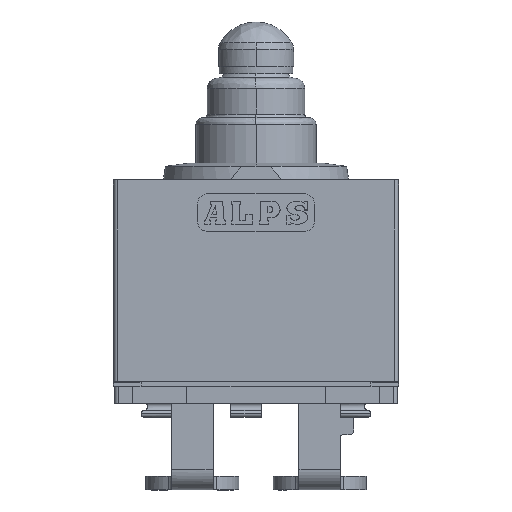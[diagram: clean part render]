
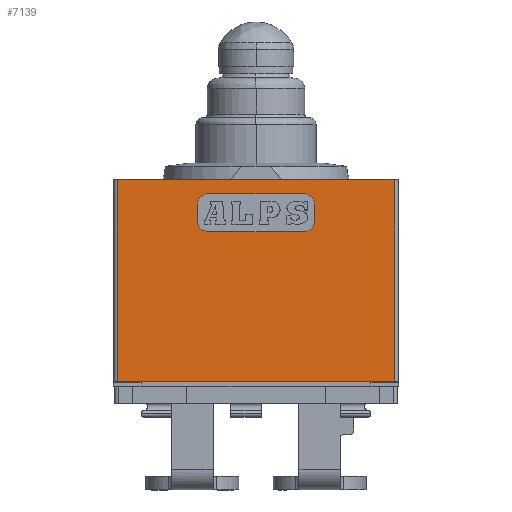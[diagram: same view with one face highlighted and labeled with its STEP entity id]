
A CAD part, top view. The second image highlights one B-rep face of the part: STEP entity #7139.
In plain terms, the highlighted planar face has unit normal (0, 0, 1).
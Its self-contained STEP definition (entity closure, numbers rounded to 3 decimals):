
#141 = DIRECTION ( 'NONE',  ( 0., 1., 0. ) ) ;
#215 = VECTOR ( 'NONE', #141, 1000. ) ;
#234 = VERTEX_POINT ( 'NONE', #12166 ) ;
#265 = DIRECTION ( 'NONE',  ( -1., 0., 0. ) ) ;
#785 = CARTESIAN_POINT ( 'NONE',  ( 1.7, 6.3, 2.65 ) ) ;
#1045 = DIRECTION ( 'NONE',  ( 0., 1., 0. ) ) ;
#1055 = ORIENTED_EDGE ( 'NONE', *, *, #5976, .T. ) ;
#1118 = DIRECTION ( 'NONE',  ( 1., 0., 0. ) ) ;
#1240 = VECTOR ( 'NONE', #1045, 1000. ) ;
#1295 = CARTESIAN_POINT ( 'NONE',  ( 1.4, 6.5, 2.65 ) ) ;
#1415 = VECTOR ( 'NONE', #3624, 1000. ) ;
#1653 = PLANE ( 'NONE',  #8191 ) ;
#1979 = CARTESIAN_POINT ( 'NONE',  ( -1.4, 6.2, 2.65 ) ) ;
#2350 = EDGE_CURVE ( 'NONE', #7288, #6438, #3733, .T. ) ;
#2404 = EDGE_CURVE ( 'NONE', #13025, #14636, #9366, .T. ) ;
#2504 = VECTOR ( 'NONE', #8685, 1000. ) ;
#2799 = DIRECTION ( 'NONE',  ( 0., 0., 1. ) ) ;
#2969 = CARTESIAN_POINT ( 'NONE',  ( -1.7, 6.2, 2.65 ) ) ;
#3065 = CARTESIAN_POINT ( 'NONE',  ( 4.225, 1.05, 2.65 ) ) ;
#3084 = LINE ( 'NONE', #11265, #5699 ) ;
#3112 = DIRECTION ( 'NONE',  ( 1., 0., 0. ) ) ;
#3576 = LINE ( 'NONE', #8048, #215 ) ;
#3624 = DIRECTION ( 'NONE',  ( -1., 0., 0. ) ) ;
#3670 = CIRCLE ( 'NONE', #6058, 0.3 ) ;
#3733 = LINE ( 'NONE', #785, #2504 ) ;
#3877 = CARTESIAN_POINT ( 'NONE',  ( 1.4, 6.2, 2.65 ) ) ;
#4088 = VECTOR ( 'NONE', #265, 1000. ) ;
#4092 = VERTEX_POINT ( 'NONE', #4836 ) ;
#4269 = EDGE_CURVE ( 'NONE', #8019, #13025, #14351, .T. ) ;
#4377 = ORIENTED_EDGE ( 'NONE', *, *, #12333, .T. ) ;
#4632 = DIRECTION ( 'NONE',  ( 0., 0., -1. ) ) ;
#4673 = CARTESIAN_POINT ( 'NONE',  ( 4.03, 6.9, 2.65 ) ) ;
#4827 = EDGE_LOOP ( 'NONE', ( #9130, #12639, #11953, #9405, #1055, #11366, #13836, #8338 ) ) ;
#4831 = CARTESIAN_POINT ( 'NONE',  ( 1.7, 5.7, 2.65 ) ) ;
#4836 = CARTESIAN_POINT ( 'NONE',  ( 1.4, 5.4, 2.65 ) ) ;
#4998 = DIRECTION ( 'NONE',  ( 1., 0., 0. ) ) ;
#5364 = FACE_OUTER_BOUND ( 'NONE', #10302, .T. ) ;
#5699 = VECTOR ( 'NONE', #1118, 1000. ) ;
#5721 = VERTEX_POINT ( 'NONE', #11428 ) ;
#5881 = DIRECTION ( 'NONE',  ( 0., 0., -1. ) ) ;
#5976 = EDGE_CURVE ( 'NONE', #13277, #7288, #3670, .T. ) ;
#6058 = AXIS2_PLACEMENT_3D ( 'NONE', #3877, #11741, #4998 ) ;
#6275 = DIRECTION ( 'NONE',  ( 0., -1., 0. ) ) ;
#6438 = VERTEX_POINT ( 'NONE', #4831 ) ;
#6468 = CARTESIAN_POINT ( 'NONE',  ( 1.7, 6.2, 2.65 ) ) ;
#6529 = CIRCLE ( 'NONE', #14078, 0.3 ) ;
#6724 = VECTOR ( 'NONE', #13222, 1000. ) ;
#6951 = CARTESIAN_POINT ( 'NONE',  ( 4.225, 6.9, 2.65 ) ) ;
#7004 = EDGE_CURVE ( 'NONE', #14277, #13277, #3084, .T. ) ;
#7139 = ADVANCED_FACE ( 'NONE', ( #5364, #7290 ), #1653, .T. ) ;
#7288 = VERTEX_POINT ( 'NONE', #6468 ) ;
#7290 = FACE_BOUND ( 'NONE', #4827, .T. ) ;
#7618 = LINE ( 'NONE', #14593, #1240 ) ;
#8019 = VERTEX_POINT ( 'NONE', #11338 ) ;
#8048 = CARTESIAN_POINT ( 'NONE',  ( 4.03, 6.3, 2.65 ) ) ;
#8068 = EDGE_CURVE ( 'NONE', #14636, #12785, #3576, .T. ) ;
#8191 = AXIS2_PLACEMENT_3D ( 'NONE', #12901, #2799, #10693 ) ;
#8241 = EDGE_CURVE ( 'NONE', #8388, #14277, #11316, .T. ) ;
#8338 = ORIENTED_EDGE ( 'NONE', *, *, #12374, .T. ) ;
#8388 = VERTEX_POINT ( 'NONE', #2969 ) ;
#8685 = DIRECTION ( 'NONE',  ( 0., -1., 0. ) ) ;
#8702 = EDGE_CURVE ( 'NONE', #6438, #4092, #6529, .T. ) ;
#9130 = ORIENTED_EDGE ( 'NONE', *, *, #14435, .T. ) ;
#9366 = LINE ( 'NONE', #3065, #6724 ) ;
#9405 = ORIENTED_EDGE ( 'NONE', *, *, #7004, .T. ) ;
#9601 = ORIENTED_EDGE ( 'NONE', *, *, #4269, .T. ) ;
#9853 = DIRECTION ( 'NONE',  ( 0., 0., -1. ) ) ;
#9878 = ORIENTED_EDGE ( 'NONE', *, *, #2404, .T. ) ;
#10302 = EDGE_LOOP ( 'NONE', ( #9878, #10594, #4377, #9601 ) ) ;
#10433 = LINE ( 'NONE', #6951, #1415 ) ;
#10594 = ORIENTED_EDGE ( 'NONE', *, *, #8068, .T. ) ;
#10643 = EDGE_CURVE ( 'NONE', #234, #8388, #7618, .T. ) ;
#10693 = DIRECTION ( 'NONE',  ( 1., 0., 0. ) ) ;
#10850 = AXIS2_PLACEMENT_3D ( 'NONE', #1979, #9853, #3112 ) ;
#11138 = CARTESIAN_POINT ( 'NONE',  ( -1.4, 6.5, 2.65 ) ) ;
#11265 = CARTESIAN_POINT ( 'NONE',  ( 4.225, 6.5, 2.65 ) ) ;
#11316 = CIRCLE ( 'NONE', #10850, 0.3 ) ;
#11338 = CARTESIAN_POINT ( 'NONE',  ( -4.031, 6.9, 2.65 ) ) ;
#11366 = ORIENTED_EDGE ( 'NONE', *, *, #2350, .T. ) ;
#11376 = CARTESIAN_POINT ( 'NONE',  ( 1.4, 5.7, 2.65 ) ) ;
#11428 = CARTESIAN_POINT ( 'NONE',  ( -1.4, 5.4, 2.65 ) ) ;
#11654 = VECTOR ( 'NONE', #6275, 1000. ) ;
#11741 = DIRECTION ( 'NONE',  ( 0., 0., -1. ) ) ;
#11953 = ORIENTED_EDGE ( 'NONE', *, *, #8241, .T. ) ;
#11981 = AXIS2_PLACEMENT_3D ( 'NONE', #12638, #5881, #13809 ) ;
#12166 = CARTESIAN_POINT ( 'NONE',  ( -1.7, 5.7, 2.65 ) ) ;
#12293 = CARTESIAN_POINT ( 'NONE',  ( 4.03, 1.05, 2.65 ) ) ;
#12333 = EDGE_CURVE ( 'NONE', #12785, #8019, #10433, .T. ) ;
#12374 = EDGE_CURVE ( 'NONE', #4092, #5721, #13088, .T. ) ;
#12498 = DIRECTION ( 'NONE',  ( 1., 0., 0. ) ) ;
#12638 = CARTESIAN_POINT ( 'NONE',  ( -1.4, 5.7, 2.65 ) ) ;
#12639 = ORIENTED_EDGE ( 'NONE', *, *, #10643, .T. ) ;
#12785 = VERTEX_POINT ( 'NONE', #4673 ) ;
#12901 = CARTESIAN_POINT ( 'NONE',  ( 4.225, 6.3, 2.65 ) ) ;
#12992 = CIRCLE ( 'NONE', #11981, 0.3 ) ;
#13025 = VERTEX_POINT ( 'NONE', #13066 ) ;
#13066 = CARTESIAN_POINT ( 'NONE',  ( -4.031, 1.05, 2.65 ) ) ;
#13088 = LINE ( 'NONE', #13790, #4088 ) ;
#13222 = DIRECTION ( 'NONE',  ( 1., 0., 0. ) ) ;
#13277 = VERTEX_POINT ( 'NONE', #1295 ) ;
#13790 = CARTESIAN_POINT ( 'NONE',  ( 4.225, 5.4, 2.65 ) ) ;
#13809 = DIRECTION ( 'NONE',  ( 1., 0., 0. ) ) ;
#13836 = ORIENTED_EDGE ( 'NONE', *, *, #8702, .T. ) ;
#14078 = AXIS2_PLACEMENT_3D ( 'NONE', #11376, #4632, #12498 ) ;
#14205 = CARTESIAN_POINT ( 'NONE',  ( -4.031, 6.3, 2.65 ) ) ;
#14277 = VERTEX_POINT ( 'NONE', #11138 ) ;
#14351 = LINE ( 'NONE', #14205, #11654 ) ;
#14435 = EDGE_CURVE ( 'NONE', #5721, #234, #12992, .T. ) ;
#14593 = CARTESIAN_POINT ( 'NONE',  ( -1.7, 6.3, 2.65 ) ) ;
#14636 = VERTEX_POINT ( 'NONE', #12293 ) ;
